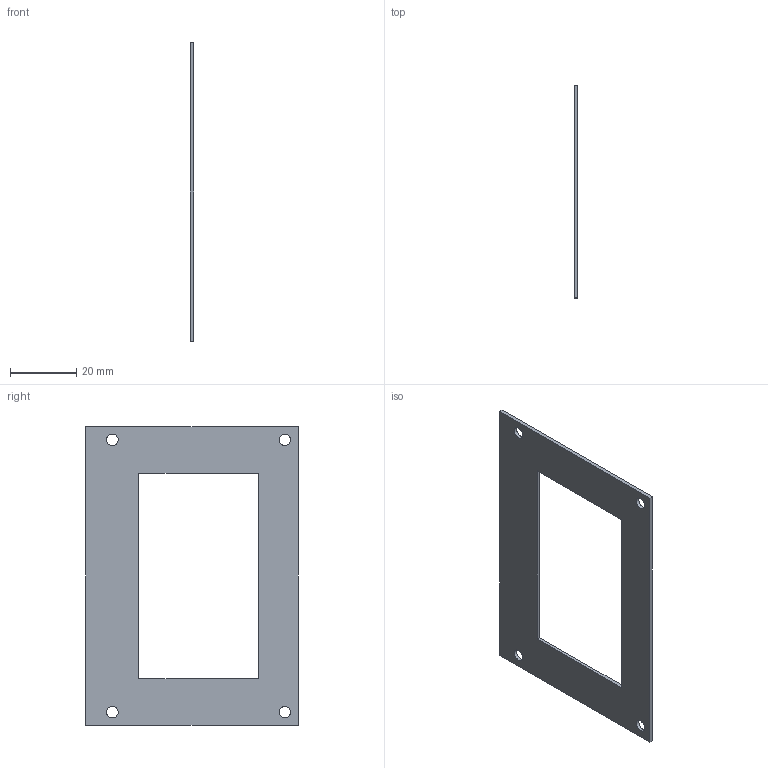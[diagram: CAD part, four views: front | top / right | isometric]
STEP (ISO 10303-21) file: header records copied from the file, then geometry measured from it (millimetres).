
FILE_DESCRIPTION(('FreeCAD Model'),'2;1');
FILE_NAME('Open CASCADE Shape Model','2026-10-19T19:41:49',('FreeCAD'),( 'FreeCAD'),'Open CASCADE STEP processor 7.8','FreeCAD','Unknown');
FILE_SCHEMA(('AUTOMOTIVE_DESIGN { 1 0 10303 214 1 1 1 1 }'));
Length unit declared in the file: millimetre
Products named in the file (1): Open CASCADE STEP translator 7.8 16
Bounding box: 1 x 64 x 90 mm (x, y, z)
Volume: 3489.5 mm3; surface area: 7527 mm2
Topology: 1 solids, 1 shells, 14 faces, 36 edges, 24 vertices
Faces by surface type: plane 10, cylinder 4
Full cylindrical faces by diameter (mm): 3.5 x4
Entity records: 458 total; most frequent: CARTESIAN_POINT 75, DIRECTION 74, ORIENTED_EDGE 72, EDGE_CURVE 36, LINE 28, VECTOR 28, FACE_BOUND 24, EDGE_LOOP 24
